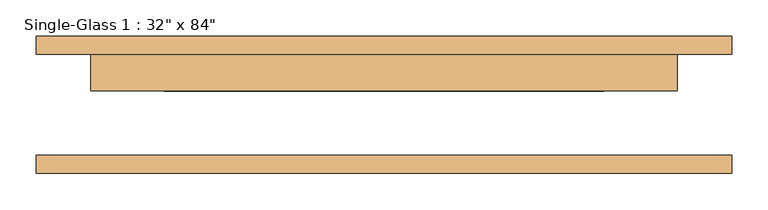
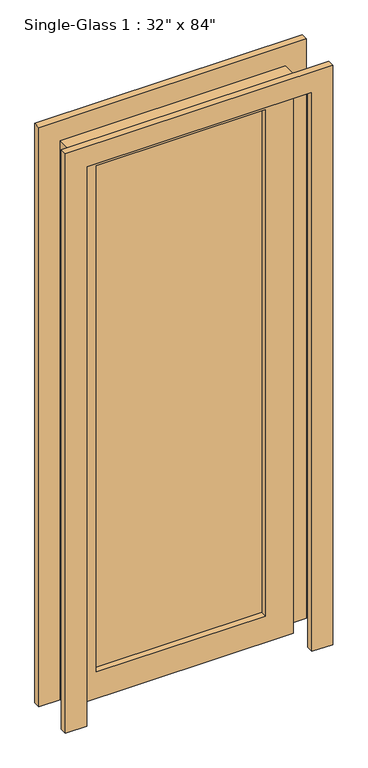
"""IFC4 building model written with IfcOpenShell, lengths in millimetres: door geometry."""

from ifc_helpers import new_model, si_unit, frame, origin, place, context, project, spatial, polyline, outline, extrude, source, transform, mapped, element, save


def door_6b1170f2(model_context):
    return source(origin(), model_context, "Body", "SweptSolid", [
        extrude(outline(polyline([(2133.6, 406.4), (0.0, 406.4), (0.0, 482.6), (2209.8, 482.6), (2209.8, -482.6), (0.0, -482.6), (0.0, -406.4), (2133.6, -406.4), (2133.6, 406.4)])), frame((0.0, -95.25, 0.0), z_axis=(0.0, 1.0, 0.0), x_axis=(0.0, 0.0, 1.0)), (0.0, 0.0, 1.0), 25.4),
        extrude(outline(polyline([(2133.6, 406.4), (0.0, 406.4), (0.0, 482.6), (2209.8, 482.6), (2209.8, -482.6), (0.0, -482.6), (0.0, -406.4), (2133.6, -406.4), (2133.6, 406.4)])), frame((0.0, 69.85, 0.0), z_axis=(0.0, 1.0, 0.0), x_axis=(0.0, 0.0, 1.0)), (0.0, 0.0, 1.0), 25.4),
        extrude(outline(polyline([(304.8, 41.275), (-304.8, 41.275), (-304.8, 47.625), (304.8, 47.625), (304.8, 41.275)])), frame((0.0, 0.0, 101.6), z_axis=(0.0, 0.0, 1.0), x_axis=(1.0, 0.0, 0.0)), (0.0, 0.0, 1.0), 1930.4),
        extrude(outline(polyline([(2133.6, 406.4), (2133.6, -406.4), (0.0, -406.4), (0.0, 406.4), (2133.6, 406.4)]), holes=[polyline([(2032.0, -304.8), (2032.0, 304.8), (101.6, 304.8), (101.6, -304.8), (2032.0, -304.8)])]), frame((0.0, 19.05, 0.0), z_axis=(0.0, 1.0, 0.0), x_axis=(0.0, 0.0, 1.0)), (0.0, 0.0, 1.0), 50.8),
    ])


if __name__ == "__main__":
    model = new_model("IFC4")
    model_context = context("Model", 3, world=origin())
    ifc_project = project(units=[si_unit("LENGTHUNIT", "METRE", prefix="MILLI")], contexts=[model_context])
    site = spatial("IfcSite", under=ifc_project)
    building = spatial("IfcBuilding", under=site)
    placement = place(None, origin())
    door_shape = door_6b1170f2(model_context)
    element("IfcDoor", 1, ObjectType="Single-Glass 1 : 32\" x 84\"", at=placement, inside=building, context=model_context, shape_type="MappedRepresentation", body=[
        mapped(door_shape, transform((0.0, 0.0, 0.0), x_axis=(1.0, 0.0, 0.0), y_axis=(0.0, 1.0, 0.0), z_axis=(0.0, 0.0, 1.0))),
    ])
    save(model, "model.ifc")
